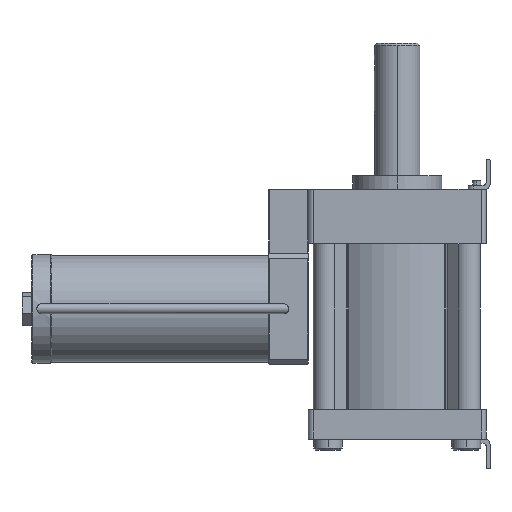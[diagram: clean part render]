
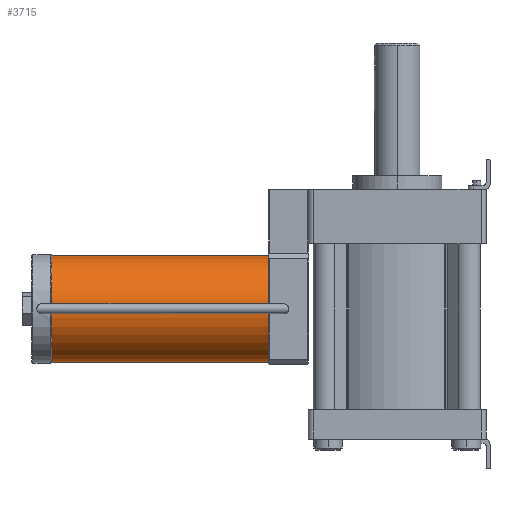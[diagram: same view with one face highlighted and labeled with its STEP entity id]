
A CAD part, left-side view. The second image highlights one B-rep face of the part: STEP entity #3715.
In plain terms, the highlighted cylindrical face has radius 54 mm (diameter 108 mm), a partial arc.
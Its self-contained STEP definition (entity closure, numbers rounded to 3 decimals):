
#319 = FACE_OUTER_BOUND ( 'NONE', #12320, .T. ) ;
#361 = DIRECTION ( 'NONE',  ( 0., -1., 0. ) ) ;
#784 = CARTESIAN_POINT ( 'NONE',  ( 0., 350., -93.5 ) ) ;
#1281 = CARTESIAN_POINT ( 'NONE',  ( 0., 130., -147.5 ) ) ;
#1703 = CARTESIAN_POINT ( 'NONE',  ( 0., 350., -147.5 ) ) ;
#1798 = DIRECTION ( 'NONE',  ( 0., 0., 1. ) ) ;
#1874 = DIRECTION ( 'NONE',  ( 0., -1., 0. ) ) ;
#2054 = VERTEX_POINT ( 'NONE', #10139 ) ;
#3058 = CARTESIAN_POINT ( 'NONE',  ( 0., 350., -39.5 ) ) ;
#3161 = VECTOR ( 'NONE', #1874, 1000. ) ;
#3194 = VERTEX_POINT ( 'NONE', #3058 ) ;
#3240 = LINE ( 'NONE', #12121, #8145 ) ;
#3715 = ADVANCED_FACE ( 'NONE', ( #319 ), #12742, .T. ) ;
#4248 = CIRCLE ( 'NONE', #12362, 54. ) ;
#6163 = EDGE_CURVE ( 'NONE', #7811, #2054, #4248, .T. ) ;
#6955 = EDGE_CURVE ( 'NONE', #9563, #7811, #11200, .T. ) ;
#7745 = DIRECTION ( 'NONE',  ( 0., 1., 0. ) ) ;
#7811 = VERTEX_POINT ( 'NONE', #1281 ) ;
#8145 = VECTOR ( 'NONE', #361, 1000. ) ;
#8770 = CIRCLE ( 'NONE', #12298, 54. ) ;
#9008 = DIRECTION ( 'NONE',  ( 0., 0., -1. ) ) ;
#9020 = EDGE_CURVE ( 'NONE', #9563, #3194, #8770, .T. ) ;
#9035 = DIRECTION ( 'NONE',  ( 0., 1., 0. ) ) ;
#9048 = CARTESIAN_POINT ( 'NONE',  ( 0., 130., -93.5 ) ) ;
#9563 = VERTEX_POINT ( 'NONE', #1703 ) ;
#9974 = ORIENTED_EDGE ( 'NONE', *, *, #6163, .T. ) ;
#10139 = CARTESIAN_POINT ( 'NONE',  ( 0., 130., -39.5 ) ) ;
#10259 = ORIENTED_EDGE ( 'NONE', *, *, #9020, .F. ) ;
#10305 = ORIENTED_EDGE ( 'NONE', *, *, #12188, .F. ) ;
#10569 = AXIS2_PLACEMENT_3D ( 'NONE', #11545, #11371, #11326 ) ;
#11200 = LINE ( 'NONE', #11589, #3161 ) ;
#11326 = DIRECTION ( 'NONE',  ( 0., 0., -1. ) ) ;
#11371 = DIRECTION ( 'NONE',  ( 0., -1., 0. ) ) ;
#11545 = CARTESIAN_POINT ( 'NONE',  ( 0., 350., -93.5 ) ) ;
#11589 = CARTESIAN_POINT ( 'NONE',  ( 0., 350., -147.5 ) ) ;
#12121 = CARTESIAN_POINT ( 'NONE',  ( 0., 350., -39.5 ) ) ;
#12188 = EDGE_CURVE ( 'NONE', #3194, #2054, #3240, .T. ) ;
#12298 = AXIS2_PLACEMENT_3D ( 'NONE', #784, #7745, #1798 ) ;
#12320 = EDGE_LOOP ( 'NONE', ( #10305, #10259, #12518, #9974 ) ) ;
#12362 = AXIS2_PLACEMENT_3D ( 'NONE', #9048, #9035, #9008 ) ;
#12518 = ORIENTED_EDGE ( 'NONE', *, *, #6955, .T. ) ;
#12742 = CYLINDRICAL_SURFACE ( 'NONE', #10569, 54. ) ;
